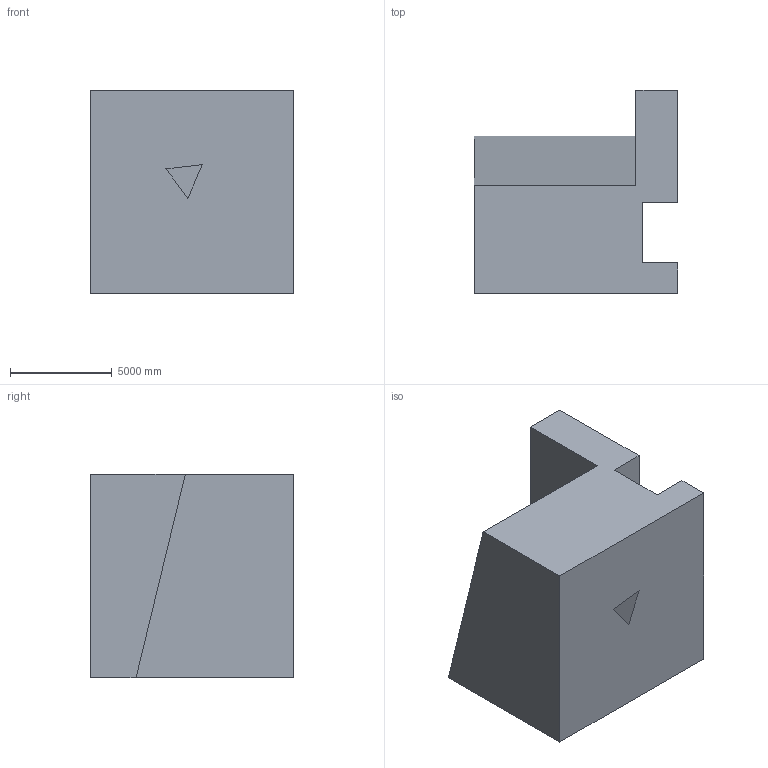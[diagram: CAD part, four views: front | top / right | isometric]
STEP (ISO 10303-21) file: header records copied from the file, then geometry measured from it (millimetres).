
FILE_DESCRIPTION (( 'STEP AP203' ), '1' );
FILE_NAME ('1263.STEP', '2022-08-18T13:27:25', ( 'user' ), ( '' ), 'SwSTEP 2.0', 'SolidWorks 2021', '' );
FILE_SCHEMA (( 'CONFIG_CONTROL_DESIGN' ));
Length unit declared in the file: centimetre
Products named in the file (1): 1263
Bounding box: 10000 x 10000 x 10000 mm (x, y, z)
Volume: 666319301912.3 mm3; surface area: 599952692.9 mm2
Topology: 1 solids, 1 shells, 16 faces, 39 edges, 26 vertices
Faces by surface type: plane 16
Entity records: 540 total; most frequent: CARTESIAN_POINT 82, ORIENTED_EDGE 78, DIRECTION 73, EDGE_CURVE 39, LINE 39, VECTOR 39, VERTEX_POINT 26, EDGE_LOOP 17
